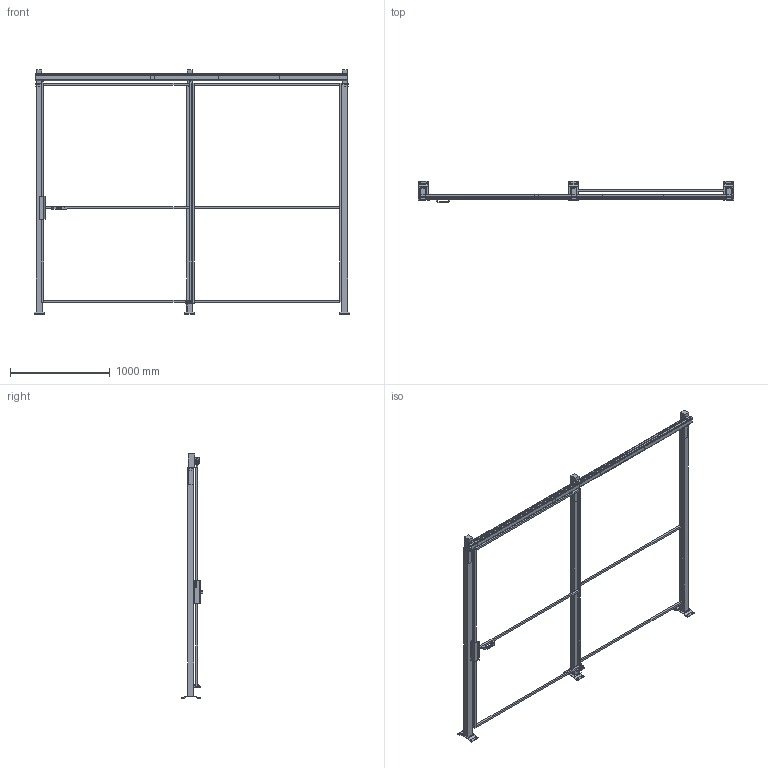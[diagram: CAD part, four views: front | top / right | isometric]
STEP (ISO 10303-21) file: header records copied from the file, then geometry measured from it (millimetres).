
FILE_DESCRIPTION(/* description */ (''),/* implementation_level */ '2;1');
FILE_NAME(/* name */ 'C:\SafeGuarding\ELABORATI\VZOR§POSUVNE_1950x2320_2025-02-13-12-15-09.stp',/* time_stamp */ '2025-02-13T12:15:11+01:00',/* author */ ('admin'),/* organization */ (''),/* preprocessor_version */ 'ST-DEVELOPER v18.1',/* originating_system */ 'AutoCAD Mechanical',/* authorisation */ '');
FILE_SCHEMA (('AUTOMOTIVE_DESIGN { 1 0 10303 214 3 1 1 }','MODEL_BASED_INTEGRATED_MANUFACTURING_SCHEMA'));
Length unit declared in the file: millimetre
Products named in the file (4): Product; R_VFPA.REPE20.15002200; DATI_PORTA; P_VFMA.ME60SDU.2320
Assembly tree (6 placements, depth 2):
  Product
    P_VFMA.ME60SDU.2320  x3
    R_VFPA.REPE20.15002200  x2
    DATI_PORTA
Bounding box: 3170 x 219.95 x 2454 mm (x, y, z)
Volume: 40127469.2 mm3; surface area: 5320178.4 mm2
Topology: 36 solids, 47 shells, 516 faces, 1706 edges, 1668 vertices
Faces by surface type: plane 474, cylinder 40, sphere 2
Full cylindrical faces by diameter (mm): 11 x12, 12 x2, 15 x4, 40 x4
Entity records: 13347 total; most frequent: CARTESIAN_POINT 2831, DIRECTION 2015, ORIENTED_EDGE 1950, EDGE_CURVE 1024, LINE 991, VECTOR 991, VERTEX_POINT 724, AXIS2_PLACEMENT_3D 512
